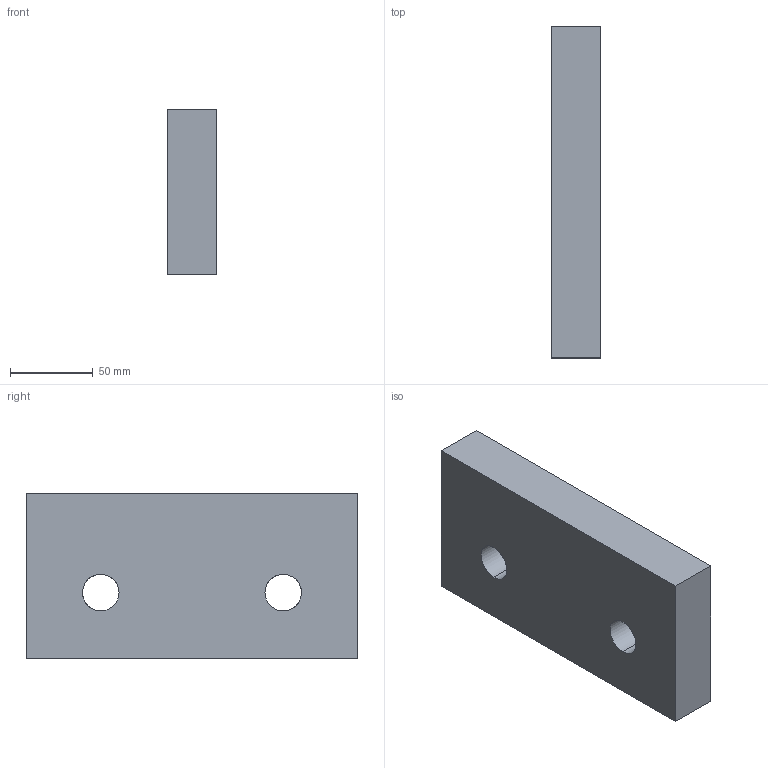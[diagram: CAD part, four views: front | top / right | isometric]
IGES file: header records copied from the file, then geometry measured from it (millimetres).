
Start section: START RECORD GO HERE.
Global section: file name: A612-100-2001.igs; native system: DASSAULT SYSTEMES CATIA V5 R20 - www.3ds.com; preprocessor: CATIA Version 5 Release 20 ; author: Utente; organization: NB04-ASUS; date: 20200414.151859; units: millimetre
Bounding box: 30 x 200 x 100 mm (x, y, z)
Surface area: 60626.4 mm2 (no closed solid volume)
Topology: 0 solids, 0 shells, 10 faces, 48 edges, 48 vertices
Faces by surface type: extrusion 6, revolution 4
